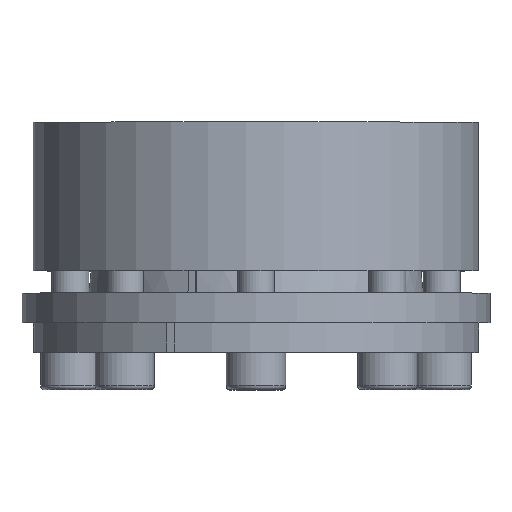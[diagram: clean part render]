
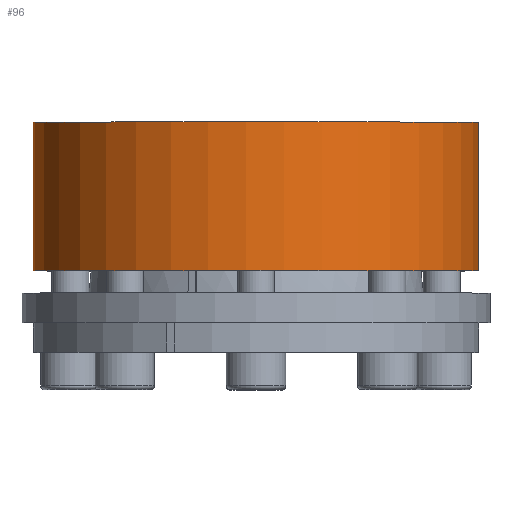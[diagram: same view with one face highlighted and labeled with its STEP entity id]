
A CAD part, top view. The second image highlights one B-rep face of the part: STEP entity #96.
In plain terms, the highlighted cylindrical face has radius 60 mm (diameter 120 mm), a partial arc.
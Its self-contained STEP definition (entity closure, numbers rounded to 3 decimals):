
#96 = ADVANCED_FACE( '', ( #220 ), #221, .T. );
#220 = FACE_OUTER_BOUND( '', #416, .T. );
#221 = CYLINDRICAL_SURFACE( '', #417, 60. );
#416 = EDGE_LOOP( '', ( #671, #672, #673, #674 ) );
#417 = AXIS2_PLACEMENT_3D( '', #675, #676, #677 );
#671 = ORIENTED_EDGE( '', *, *, #1071, .F. );
#672 = ORIENTED_EDGE( '', *, *, #1072, .T. );
#673 = ORIENTED_EDGE( '', *, *, #1073, .T. );
#674 = ORIENTED_EDGE( '', *, *, #1074, .F. );
#675 = CARTESIAN_POINT( '', ( 0., -60., 0. ) );
#676 = DIRECTION( '', ( 0., 1., 0. ) );
#677 = DIRECTION( '', ( 0., 0., -1. ) );
#1071 = EDGE_CURVE( '', #1298, #1299, #1300, .T. );
#1072 = EDGE_CURVE( '', #1298, #1301, #1302, .F. );
#1073 = EDGE_CURVE( '', #1301, #1303, #1304, .T. );
#1074 = EDGE_CURVE( '', #1299, #1303, #1305, .F. );
#1298 = VERTEX_POINT( '', #1662 );
#1299 = VERTEX_POINT( '', #1663 );
#1300 = CIRCLE( '', #1664, 60. );
#1301 = VERTEX_POINT( '', #1665 );
#1302 = LINE( '', #1666, #1667 );
#1303 = VERTEX_POINT( '', #1668 );
#1304 = CIRCLE( '', #1669, 60. );
#1305 = LINE( '', #1670, #1671 );
#1662 = CARTESIAN_POINT( '', ( 24.065, 22., -54.962 ) );
#1663 = CARTESIAN_POINT( '', ( 21.848, 22., -55.881 ) );
#1664 = AXIS2_PLACEMENT_3D( '', #1979, #1980, #1981 );
#1665 = CARTESIAN_POINT( '', ( 24.065, 62., -54.962 ) );
#1666 = CARTESIAN_POINT( '', ( 24.065, -60., -54.962 ) );
#1667 = VECTOR( '', #1982, 1000. );
#1668 = CARTESIAN_POINT( '', ( 21.848, 62., -55.881 ) );
#1669 = AXIS2_PLACEMENT_3D( '', #1983, #1984, #1985 );
#1670 = CARTESIAN_POINT( '', ( 21.848, -60., -55.881 ) );
#1671 = VECTOR( '', #1986, 1000. );
#1979 = CARTESIAN_POINT( '', ( 0., 22., 0. ) );
#1980 = DIRECTION( '', ( 0., -1., 0. ) );
#1981 = DIRECTION( '', ( 0., 0., -1. ) );
#1982 = DIRECTION( '', ( 0., -1., 0. ) );
#1983 = CARTESIAN_POINT( '', ( 0., 62., 0. ) );
#1984 = DIRECTION( '', ( 0., -1., 0. ) );
#1985 = DIRECTION( '', ( 0., 0., -1. ) );
#1986 = DIRECTION( '', ( 0., -1., 0. ) );
